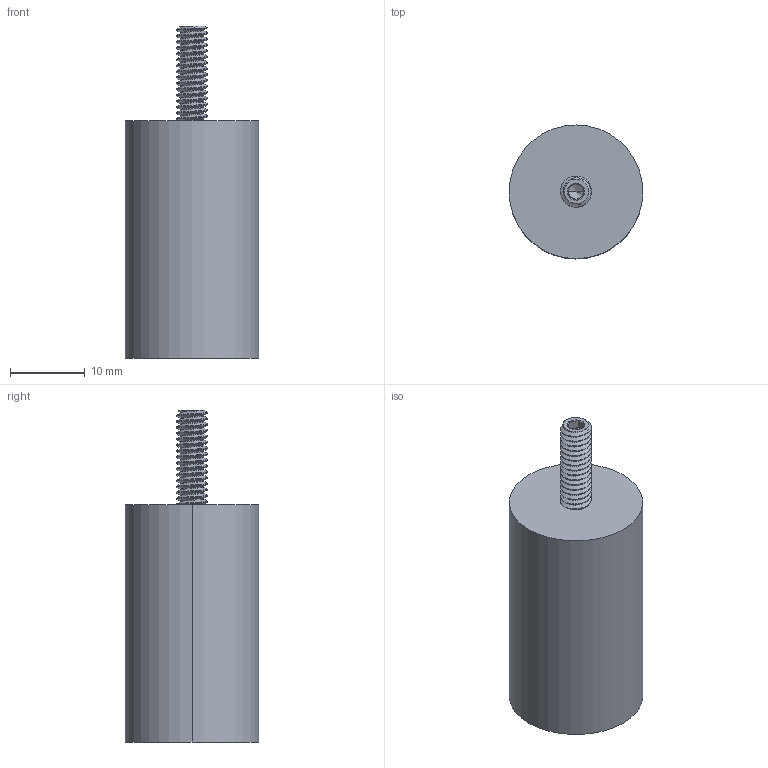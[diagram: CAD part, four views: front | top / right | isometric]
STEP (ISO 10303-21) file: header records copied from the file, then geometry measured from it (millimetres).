
FILE_DESCRIPTION (( 'STEP AP203' ), '1' );
FILE_NAME ('FDPCK-.5PULTRUD-STUD-8-32-L.step', '2019-09-11T18:22:30', ( 'ydmin' ), ( '' ), 'SwSTEP 2.0', 'SolidWorks 2017', '' );
FILE_SCHEMA (( 'CONFIG_CONTROL_DESIGN' ));
Length unit declared in the file: inch
Products named in the file (1): FDPCK-.5PULTRUD-STUD-8-32-L
Bounding box: 17.91 x 17.91 x 44.45 mm (x, y, z)
Volume: 5425.7 mm3; surface area: 3697.8 mm2
Topology: 2 solids, 2 shells, 104 faces, 277 edges, 174 vertices
Faces by surface type: cylinder 68, cone 18, plane 15, bspline 3
Entity records: 8136 total; most frequent: CARTESIAN_POINT 5901, ORIENTED_EDGE 546, DIRECTION 362, EDGE_CURVE 273, VERTEX_POINT 174, AXIS2_PLACEMENT_3D 133, EDGE_LOOP 107, FACE_OUTER_BOUND 104
